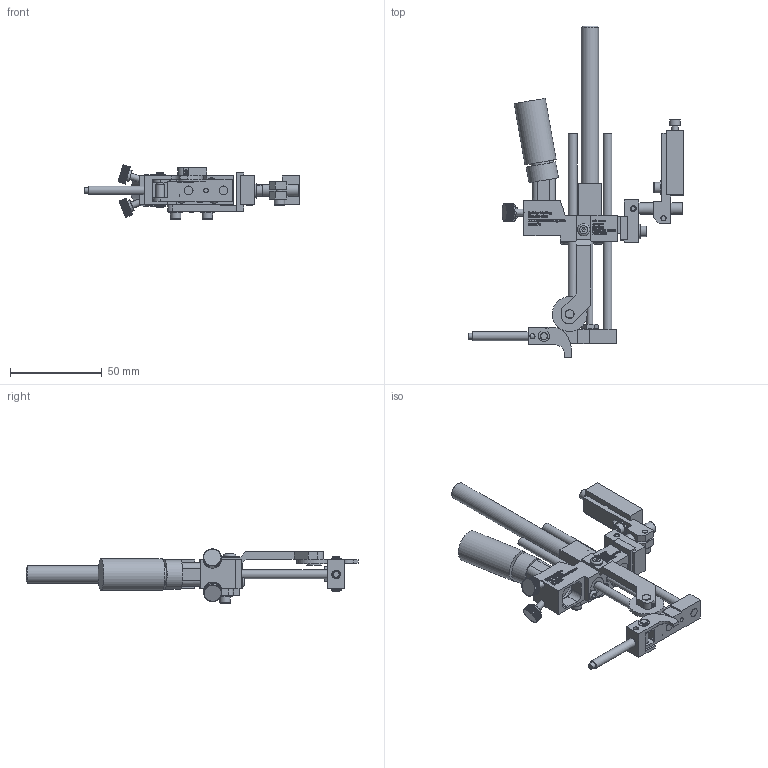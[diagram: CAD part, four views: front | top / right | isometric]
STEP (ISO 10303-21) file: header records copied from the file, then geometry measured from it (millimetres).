
FILE_DESCRIPTION((''),'2;1');
FILE_NAME('C:\Documents and Settings\Ron\My Documents\Inventor\Sprinter Drawing\Machines in Inventor\Model 22\Dot\1-eight\Ext Hd 1in\Brkt\90\Model 22 EH1 1-8 dot 90 deg w brkt.stp','2009-01-16T14:17:24',('Ron'),(''),'Autodesk Inventor 2008','Autodesk Inventor 2008','');
FILE_SCHEMA(('AUTOMOTIVE_DESIGN { 1 0 10303 214 1 1 1 1 }'));
Length unit declared in the file: inch
Products named in the file (1): Model 22 EH1 1-8 dot 90 deg w brkt
Bounding box: 117.64 x 181.03 x 29.55 mm (x, y, z)
Volume: 61336.6 mm3; surface area: 36778 mm2
Topology: 35 solids, 35 shells, 4725 faces, 13093 edges, 8694 vertices
Faces by surface type: plane 2881, bspline 1281, cylinder 493, cone 56, torus 14
Full cylindrical faces by diameter (mm): 2.819 x2, 2.845 x3, 2.946 x2, 3.175 x5, 3.493 x1, 3.505 x7, 3.556 x2, 3.658 x1, 3.876 x1, 3.962 x10, 3.988 x1, 4.064 x1, 4.166 x3, 4.648 x2, 4.699 x1, 4.75 x3, 4.763 x2, 4.788 x1, 5.41 x2, 5.74 x6, 6.096 x1, 6.325 x2, 6.35 x3, 6.477 x1, 6.655 x1, 7.925 x4, 7.938 x3, 8.128 x1, 9.525 x1, 10.922 x1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
Entity records: 164976 total; most frequent: CARTESIAN_POINT 48706, ORIENTED_EDGE 25634, DIRECTION 18382, EDGE_CURVE 12817, VECTOR 9004, LINE 9004, VERTEX_POINT 8602, EDGE_LOOP 5251
